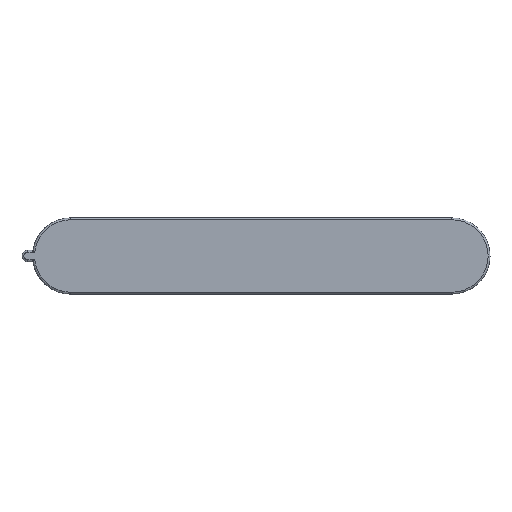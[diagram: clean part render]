
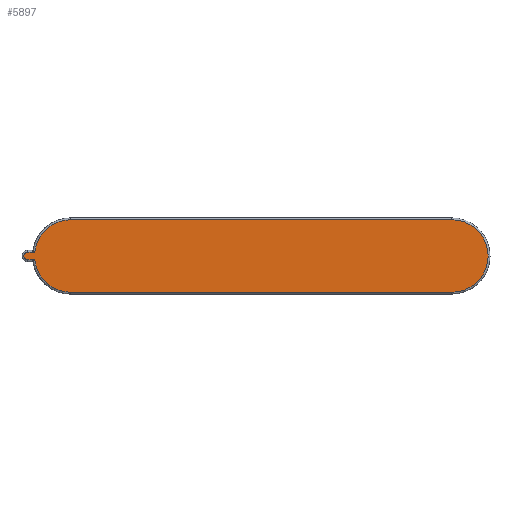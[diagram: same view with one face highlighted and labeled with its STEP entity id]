
A CAD part, front view. The second image highlights one B-rep face of the part: STEP entity #5897.
In plain terms, the highlighted planar face has unit normal (0, -1, 0).
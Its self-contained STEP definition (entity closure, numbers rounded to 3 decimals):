
#362 = EDGE_CURVE ( 'NONE', #3977, #15012, #21314, .T. ) ;
#581 = EDGE_CURVE ( 'NONE', #3763, #13636, #22503, .T. ) ;
#1159 = CARTESIAN_POINT ( 'NONE',  ( -100., 0., -2.019 ) ) ;
#1458 = AXIS2_PLACEMENT_3D ( 'NONE', #17645, #9638, #19666 ) ;
#1668 = CARTESIAN_POINT ( 'NONE',  ( -100., 0., 0. ) ) ;
#2117 = DIRECTION ( 'NONE',  ( 0., -1., 0. ) ) ;
#2144 = CARTESIAN_POINT ( 'NONE',  ( -100., 0., -19. ) ) ;
#2196 = DIRECTION ( 'NONE',  ( 0., 0., 1. ) ) ;
#2707 = CARTESIAN_POINT ( 'NONE',  ( -100., 0., 0. ) ) ;
#2956 = ORIENTED_EDGE ( 'NONE', *, *, #8629, .T. ) ;
#3004 = EDGE_CURVE ( 'NONE', #3283, #3763, #17360, .T. ) ;
#3283 = VERTEX_POINT ( 'NONE', #8921 ) ;
#3326 = LINE ( 'NONE', #1159, #14504 ) ;
#3405 = ORIENTED_EDGE ( 'NONE', *, *, #12007, .T. ) ;
#3705 = DIRECTION ( 'NONE',  ( 0., -1., 0. ) ) ;
#3763 = VERTEX_POINT ( 'NONE', #22085 ) ;
#3977 = VERTEX_POINT ( 'NONE', #6495 ) ;
#3980 = EDGE_CURVE ( 'NONE', #15012, #4648, #16293, .T. ) ;
#4648 = VERTEX_POINT ( 'NONE', #6258 ) ;
#4898 = FACE_OUTER_BOUND ( 'NONE', #17815, .T. ) ;
#5088 = ORIENTED_EDGE ( 'NONE', *, *, #581, .T. ) ;
#5599 = VERTEX_POINT ( 'NONE', #18072 ) ;
#5897 = ADVANCED_FACE ( 'NONE', ( #4898 ), #17069, .F. ) ;
#6258 = CARTESIAN_POINT ( 'NONE',  ( -100., 0., -19. ) ) ;
#6263 = AXIS2_PLACEMENT_3D ( 'NONE', #1668, #3705, #2196 ) ;
#6318 = CARTESIAN_POINT ( 'NONE',  ( -122.559, 0., 2.019 ) ) ;
#6328 = LINE ( 'NONE', #2144, #9719 ) ;
#6495 = CARTESIAN_POINT ( 'NONE',  ( -120., 0., -2.019 ) ) ;
#6576 = CIRCLE ( 'NONE', #15215, 2.019 ) ;
#6775 = AXIS2_PLACEMENT_3D ( 'NONE', #2707, #24904, #8924 ) ;
#6800 = CARTESIAN_POINT ( 'NONE',  ( -100., 0., 0. ) ) ;
#7631 = AXIS2_PLACEMENT_3D ( 'NONE', #6800, #23300, #23427 ) ;
#7721 = EDGE_CURVE ( 'NONE', #17408, #19521, #6576, .T. ) ;
#8147 = DIRECTION ( 'NONE',  ( 0., 0., 1. ) ) ;
#8186 = VECTOR ( 'NONE', #19174, 1000. ) ;
#8612 = DIRECTION ( 'NONE',  ( 1., 0., 0. ) ) ;
#8624 = DIRECTION ( 'NONE',  ( 0., -1., 0. ) ) ;
#8629 = EDGE_CURVE ( 'NONE', #10924, #17408, #13217, .T. ) ;
#8701 = AXIS2_PLACEMENT_3D ( 'NONE', #22359, #13960, #8147 ) ;
#8921 = CARTESIAN_POINT ( 'NONE',  ( 100., 0., -19. ) ) ;
#8924 = DIRECTION ( 'NONE',  ( 0., 0., 1. ) ) ;
#9291 = AXIS2_PLACEMENT_3D ( 'NONE', #20938, #8624, #23904 ) ;
#9638 = DIRECTION ( 'NONE',  ( 0., -1., 0. ) ) ;
#9719 = VECTOR ( 'NONE', #8612, 1000. ) ;
#9833 = VECTOR ( 'NONE', #24378, 1000. ) ;
#10301 = EDGE_CURVE ( 'NONE', #19521, #3977, #3326, .T. ) ;
#10924 = VERTEX_POINT ( 'NONE', #22620 ) ;
#11720 = ORIENTED_EDGE ( 'NONE', *, *, #26543, .T. ) ;
#12007 = EDGE_CURVE ( 'NONE', #13636, #5599, #17950, .T. ) ;
#12430 = ORIENTED_EDGE ( 'NONE', *, *, #3980, .T. ) ;
#13217 = LINE ( 'NONE', #19450, #8186 ) ;
#13636 = VERTEX_POINT ( 'NONE', #26620 ) ;
#13960 = DIRECTION ( 'NONE',  ( 0., -1., 0. ) ) ;
#14090 = ORIENTED_EDGE ( 'NONE', *, *, #7721, .T. ) ;
#14148 = CARTESIAN_POINT ( 'NONE',  ( -118.923, 0., -1.708 ) ) ;
#14504 = VECTOR ( 'NONE', #26167, 1000. ) ;
#15012 = VERTEX_POINT ( 'NONE', #14148 ) ;
#15215 = AXIS2_PLACEMENT_3D ( 'NONE', #16186, #2117, #26328 ) ;
#16140 = CARTESIAN_POINT ( 'NONE',  ( -100., 0., 19. ) ) ;
#16186 = CARTESIAN_POINT ( 'NONE',  ( -122.559, 0., 0. ) ) ;
#16293 = CIRCLE ( 'NONE', #6775, 19. ) ;
#17069 = PLANE ( 'NONE',  #7631 ) ;
#17360 = CIRCLE ( 'NONE', #8701, 19. ) ;
#17408 = VERTEX_POINT ( 'NONE', #6318 ) ;
#17645 = CARTESIAN_POINT ( 'NONE',  ( -120., 0., 0. ) ) ;
#17815 = EDGE_LOOP ( 'NONE', ( #2956, #14090, #25742, #26363, #12430, #11720, #19017, #5088, #3405, #26450 ) ) ;
#17950 = CIRCLE ( 'NONE', #6263, 19. ) ;
#18072 = CARTESIAN_POINT ( 'NONE',  ( -118.923, 0., 1.708 ) ) ;
#18177 = EDGE_CURVE ( 'NONE', #5599, #10924, #18807, .T. ) ;
#18807 = CIRCLE ( 'NONE', #9291, 2.019 ) ;
#19017 = ORIENTED_EDGE ( 'NONE', *, *, #3004, .T. ) ;
#19154 = CARTESIAN_POINT ( 'NONE',  ( -122.559, 0., -2.019 ) ) ;
#19174 = DIRECTION ( 'NONE',  ( -1., 0., 0. ) ) ;
#19450 = CARTESIAN_POINT ( 'NONE',  ( -122.559, 0., 2.019 ) ) ;
#19521 = VERTEX_POINT ( 'NONE', #19154 ) ;
#19666 = DIRECTION ( 'NONE',  ( 0., 0., 1. ) ) ;
#20938 = CARTESIAN_POINT ( 'NONE',  ( -120., 0., 0. ) ) ;
#21314 = CIRCLE ( 'NONE', #1458, 2.019 ) ;
#22085 = CARTESIAN_POINT ( 'NONE',  ( 100., 0., 19. ) ) ;
#22359 = CARTESIAN_POINT ( 'NONE',  ( 100., 0., 0. ) ) ;
#22503 = LINE ( 'NONE', #16140, #9833 ) ;
#22620 = CARTESIAN_POINT ( 'NONE',  ( -120., 0., 2.019 ) ) ;
#23300 = DIRECTION ( 'NONE',  ( 0., 1., 0. ) ) ;
#23427 = DIRECTION ( 'NONE',  ( 0., 0., 1. ) ) ;
#23904 = DIRECTION ( 'NONE',  ( 0., 0., 1. ) ) ;
#24378 = DIRECTION ( 'NONE',  ( -1., 0., 0. ) ) ;
#24904 = DIRECTION ( 'NONE',  ( 0., -1., 0. ) ) ;
#25742 = ORIENTED_EDGE ( 'NONE', *, *, #10301, .T. ) ;
#26167 = DIRECTION ( 'NONE',  ( 1., 0., 0. ) ) ;
#26328 = DIRECTION ( 'NONE',  ( 0., 0., 1. ) ) ;
#26363 = ORIENTED_EDGE ( 'NONE', *, *, #362, .T. ) ;
#26450 = ORIENTED_EDGE ( 'NONE', *, *, #18177, .T. ) ;
#26543 = EDGE_CURVE ( 'NONE', #4648, #3283, #6328, .T. ) ;
#26620 = CARTESIAN_POINT ( 'NONE',  ( -100., 0., 19. ) ) ;
